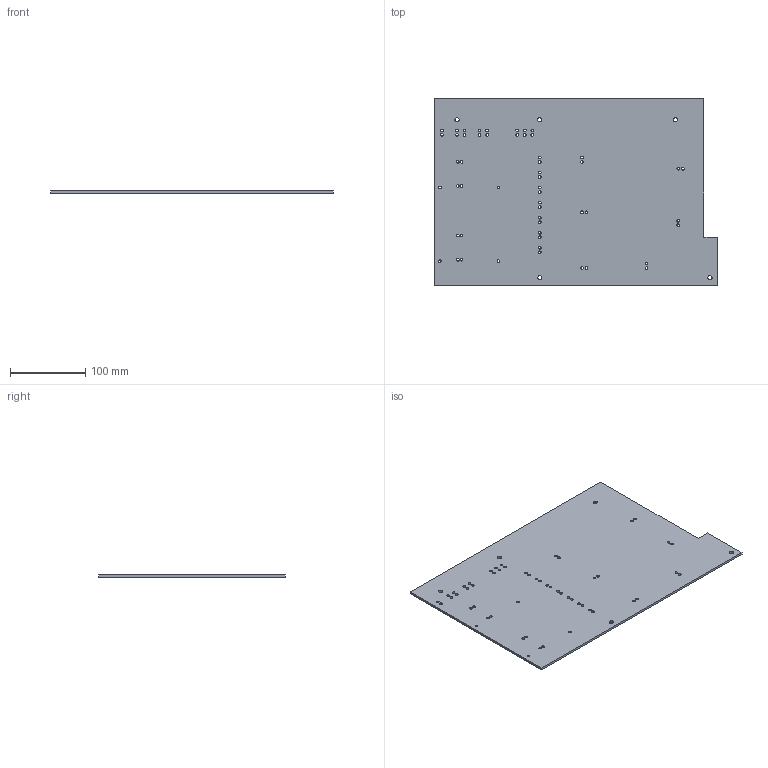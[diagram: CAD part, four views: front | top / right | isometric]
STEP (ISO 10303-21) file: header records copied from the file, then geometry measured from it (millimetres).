
FILE_DESCRIPTION(/* description */ (''),/* implementation_level */ '2;1');
FILE_NAME(/* name */ '9.electronics#9.2#la-pan-8',/* time_stamp */ '2014-12-01T20:18:46+01:00',/* author */ (''),/* organization */ (''),/* preprocessor_version */ 'ST-DEVELOPER v14',/* originating_system */ '',/* authorisation */ '');
FILE_SCHEMA (('AUTOMOTIVE_DESIGN'));
Length unit declared in the file: millimetre
Products named in the file (1): Document
Bounding box: 376 x 248 x 3 mm (x, y, z)
Volume: 267785.5 mm3; surface area: 184367.4 mm2
Topology: 1 solids, 1 shells, 126 faces, 372 edges, 248 vertices
Faces by surface type: bspline 118, plane 8
Entity records: 10452 total; most frequent: CARTESIAN_POINT 6030, ORIENTED_EDGE 744, PCURVE 744, DEFINITIONAL_REPRESENTATION 744, B_SPLINE_CURVE_WITH_KNOTS 526, SURFACE_CURVE 372, EDGE_CURVE 372, VERTEX_POINT 248
